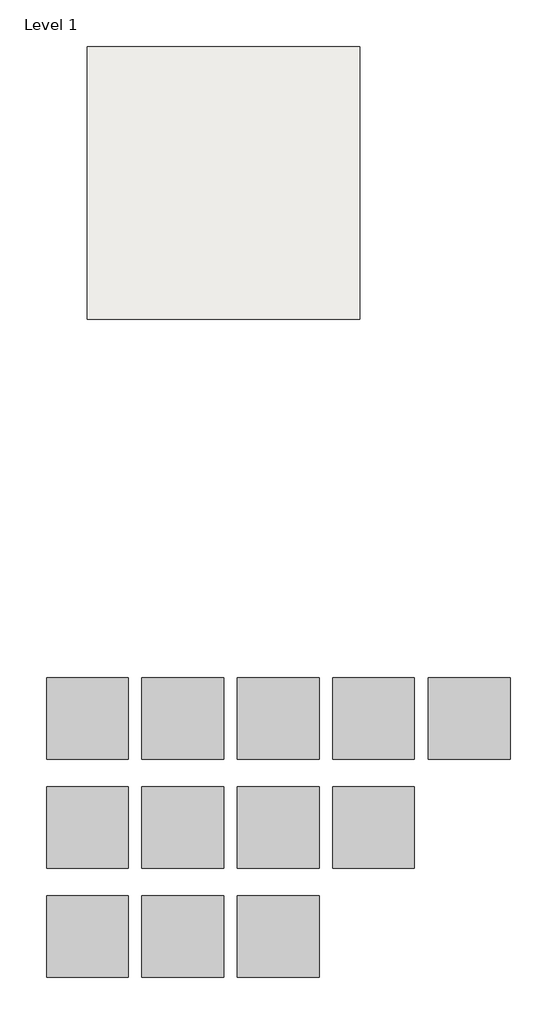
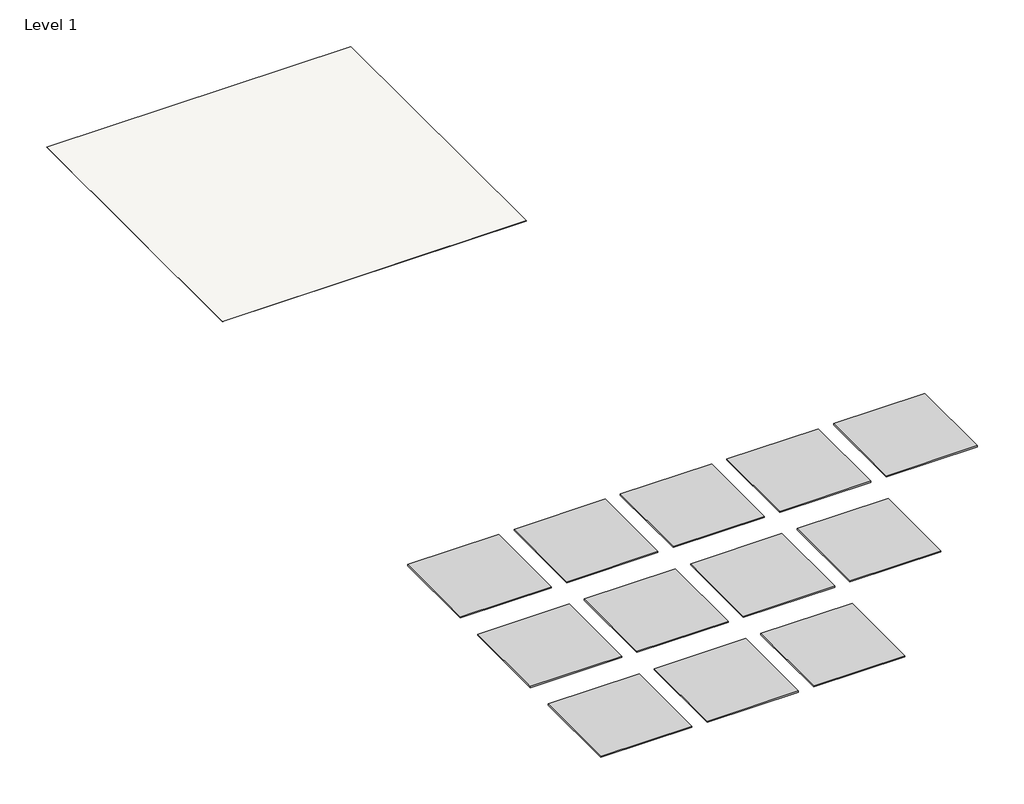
# One storey: 12 proxies, 1 slab.
"""IFC4 building model written with IfcOpenShell, lengths in millimetres."""

from ifc_helpers import new_model, si_unit, frame, origin, place, context, project, spatial, polyline, outline, extrude, transform, mapped, element, save
from components import materialsample_type_1_65bc777a

model = new_model("IFC4")

# Units and contexts
model_context = context("Model", 3, world=origin())
ifc_project = project(units=[si_unit("LENGTHUNIT", "METRE", prefix="MILLI")], contexts=[model_context])

# Site, building, storey
site = spatial("IfcSite", under=ifc_project)
building = spatial("IfcBuilding", under=site)
storey = spatial("IfcBuildingStorey", under=building, Name="Level 1", Elevation=0.0)

# Proxies
placement = place(None, origin())
materialsample_type_1_shape = materialsample_type_1_65bc777a(model_context)
element("IfcBuildingElementProxy", 1, Name="MaterialSample : Type 1", ObjectType="MaterialSample : Type 1", at=placement, inside=storey, context=model_context, shape_type="MappedRepresentation", body=[
    mapped(materialsample_type_1_shape, transform((47537.1654689, 487.2410063, 0.0), x_axis=(1.0, 0.0, 0.0), y_axis=(0.0, 1.0, 0.0), z_axis=(0.0, 0.0, 1.0))),
])
element("IfcBuildingElementProxy", 2, Name="MaterialSample : Type 1", ObjectType="MaterialSample : Type 1", at=placement, inside=storey, context=model_context, shape_type="MappedRepresentation", body=[
    mapped(materialsample_type_1_shape, transform((49670.7654689, 487.2410063, 0.0), x_axis=(1.0, 0.0, 0.0), y_axis=(0.0, 1.0, 0.0), z_axis=(0.0, 0.0, 1.0))),
])
element("IfcBuildingElementProxy", 3, Name="MaterialSample : Type 1", ObjectType="MaterialSample : Type 1", at=placement, inside=storey, context=model_context, shape_type="MappedRepresentation", body=[
    mapped(materialsample_type_1_shape, transform((51804.3654689, 487.2410063, 0.0), x_axis=(1.0, 0.0, 0.0), y_axis=(0.0, 1.0, 0.0), z_axis=(0.0, 0.0, 1.0))),
])
element("IfcBuildingElementProxy", 4, Name="MaterialSample : Type 1", ObjectType="MaterialSample : Type 1", at=placement, inside=storey, context=model_context, shape_type="MappedRepresentation", body=[
    mapped(materialsample_type_1_shape, transform((53937.9654689, 487.2410063, 0.0), x_axis=(1.0, 0.0, 0.0), y_axis=(0.0, 1.0, 0.0), z_axis=(0.0, 0.0, 1.0))),
])
element("IfcBuildingElementProxy", 5, Name="MaterialSample : Type 1", ObjectType="MaterialSample : Type 1", at=placement, inside=storey, context=model_context, shape_type="MappedRepresentation", body=[
    mapped(materialsample_type_1_shape, transform((56078.0402296, 487.2410063, 0.0), x_axis=(1.0, 0.0, 0.0), y_axis=(0.0, 1.0, 0.0), z_axis=(0.0, 0.0, 1.0))),
])
element("IfcBuildingElementProxy", 6, Name="MaterialSample : Type 1", ObjectType="MaterialSample : Type 1", at=placement, inside=storey, context=model_context, shape_type="MappedRepresentation", body=[
    mapped(materialsample_type_1_shape, transform((47537.1654689, -4389.5589937, 0.0), x_axis=(1.0, 0.0, 0.0), y_axis=(0.0, 1.0, 0.0), z_axis=(0.0, 0.0, 1.0))),
])
element("IfcBuildingElementProxy", 7, Name="MaterialSample : Type 1", ObjectType="MaterialSample : Type 1", at=placement, inside=storey, context=model_context, shape_type="MappedRepresentation", body=[
    mapped(materialsample_type_1_shape, transform((49670.7654689, -4389.5589937, 0.0), x_axis=(1.0, 0.0, 0.0), y_axis=(0.0, 1.0, 0.0), z_axis=(0.0, 0.0, 1.0))),
])
element("IfcBuildingElementProxy", 8, Name="MaterialSample : Type 1", ObjectType="MaterialSample : Type 1", at=placement, inside=storey, context=model_context, shape_type="MappedRepresentation", body=[
    mapped(materialsample_type_1_shape, transform((47537.1654689, -1951.1589937, 0.0), x_axis=(1.0, 0.0, 0.0), y_axis=(0.0, 1.0, 0.0), z_axis=(0.0, 0.0, 1.0))),
])
element("IfcBuildingElementProxy", 9, Name="MaterialSample : Type 1", ObjectType="MaterialSample : Type 1", at=placement, inside=storey, context=model_context, shape_type="MappedRepresentation", body=[
    mapped(materialsample_type_1_shape, transform((49670.7654689, -1951.1589937, 0.0), x_axis=(1.0, 0.0, 0.0), y_axis=(0.0, 1.0, 0.0), z_axis=(0.0, 0.0, 1.0))),
])
element("IfcBuildingElementProxy", 10, Name="MaterialSample : Type 1", ObjectType="MaterialSample : Type 1", at=placement, inside=storey, context=model_context, shape_type="MappedRepresentation", body=[
    mapped(materialsample_type_1_shape, transform((51804.3654689, -1951.1589937, 0.0), x_axis=(1.0, 0.0, 0.0), y_axis=(0.0, 1.0, 0.0), z_axis=(0.0, 0.0, 1.0))),
])
element("IfcBuildingElementProxy", 11, Name="MaterialSample : Type 1", ObjectType="MaterialSample : Type 1", at=placement, inside=storey, context=model_context, shape_type="MappedRepresentation", body=[
    mapped(materialsample_type_1_shape, transform((53937.9654689, -1951.1589937, 0.0), x_axis=(1.0, 0.0, 0.0), y_axis=(0.0, 1.0, 0.0), z_axis=(0.0, 0.0, 1.0))),
])
element("IfcBuildingElementProxy", 12, Name="MaterialSample : Type 1", ObjectType="MaterialSample : Type 1", at=placement, inside=storey, context=model_context, shape_type="MappedRepresentation", body=[
    mapped(materialsample_type_1_shape, transform((51804.3654689, -4389.5589937, 0.0), x_axis=(1.0, 0.0, 0.0), y_axis=(0.0, 1.0, 0.0), z_axis=(0.0, 0.0, 1.0))),
])

# Slab
element("IfcSlab", 13, ObjectType="Generic - 12\"", at=placement, inside=storey, context=model_context, shape_type="SweptSolid", body=[
    extrude(outline(polyline([(48448.1350655, 16433.5006335), (54544.1350655, 16433.5006335), (54544.1350655, 10337.5006335), (48448.1350655, 10337.5006335), (48448.1350655, 16433.5006335)])), frame((0.0, 0.0, -2.9765625), z_axis=(0.0, 0.0, 1.0), x_axis=(1.0, 0.0, 0.0)), (0.0, 0.0, 1.0), 2.9765625),
])

save(model, "model.ifc")
